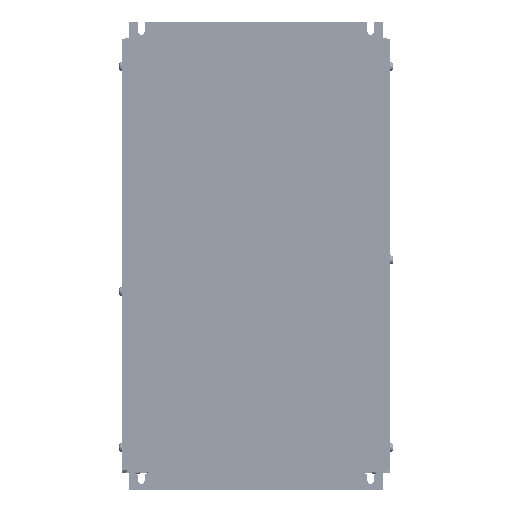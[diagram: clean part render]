
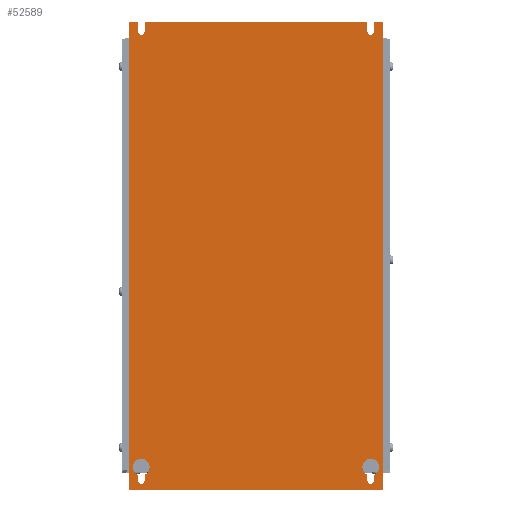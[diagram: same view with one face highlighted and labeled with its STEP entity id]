
A CAD part, front view. The second image highlights one B-rep face of the part: STEP entity #52589.
In plain terms, the highlighted planar face has unit normal (0, -1, 0).
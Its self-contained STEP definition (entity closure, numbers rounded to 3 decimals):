
#11776=DIRECTION('',(-1.,0.,0.));
#11777=VECTOR('',#11776,8.4);
#11778=CARTESIAN_POINT('',(-213.4,-100.,88.4));
#11779=LINE('',#11778,#11777);
#11784=DIRECTION('',(0.,0.,-1.));
#11785=VECTOR('',#11784,8.5);
#11786=CARTESIAN_POINT('',(-213.4,-100.,88.4));
#11787=LINE('',#11786,#11785);
#11837=DIRECTION('',(-1.,0.,0.));
#11838=VECTOR('',#11837,200.);
#11839=CARTESIAN_POINT('',(-7.4,-100.,88.4));
#11840=LINE('',#11839,#11838);
#11841=DIRECTION('',(0.,0.,-1.));
#11842=VECTOR('',#11841,8.5);
#11843=CARTESIAN_POINT('',(-7.4,-100.,88.4));
#11844=LINE('',#11843,#11842);
#11910=DIRECTION('',(-1.,0.,0.));
#11911=VECTOR('',#11910,8.4);
#11912=CARTESIAN_POINT('',(7.,-100.,88.4));
#11913=LINE('',#11912,#11911);
#11918=DIRECTION('',(0.,0.,-1.));
#11919=VECTOR('',#11918,8.5);
#11920=CARTESIAN_POINT('',(-1.4,-100.,88.4));
#11921=LINE('',#11920,#11919);
#11922=CARTESIAN_POINT('',(-4.4,-100.,79.9));
#11923=DIRECTION('',(0.,-1.,0.));
#11924=DIRECTION('',(-1.,0.,0.));
#11925=AXIS2_PLACEMENT_3D('',#11922,#11923,#11924);
#11927=DIRECTION('',(0.,0.,1.));
#11928=VECTOR('',#11927,420.);
#11929=CARTESIAN_POINT('',(7.,-100.,-331.6));
#11930=LINE('',#11929,#11928);
#11931=DIRECTION('',(1.,0.,0.));
#11932=VECTOR('',#11931,228.8);
#11933=CARTESIAN_POINT('',(-221.8,-100.,-331.6));
#11934=LINE('',#11933,#11932);
#11935=DIRECTION('',(0.,0.,-1.));
#11936=VECTOR('',#11935,420.);
#11937=CARTESIAN_POINT('',(-221.8,-100.,88.4));
#11938=LINE('',#11937,#11936);
#11939=CARTESIAN_POINT('',(-210.4,-100.,79.9));
#11940=DIRECTION('',(0.,-1.,0.));
#11941=DIRECTION('',(-1.,0.,0.));
#11942=AXIS2_PLACEMENT_3D('',#11939,#11940,#11941);
#11944=CARTESIAN_POINT('',(-210.4,-100.,-311.1));
#11945=DIRECTION('',(0.,-1.,0.));
#11946=DIRECTION('',(0.4,0.,-0.917));
#11947=AXIS2_PLACEMENT_3D('',#11944,#11945,#11946);
#11949=CARTESIAN_POINT('',(-210.4,-100.,-323.1));
#11950=DIRECTION('',(0.,-1.,0.));
#11951=DIRECTION('',(-1.,0.,0.));
#11952=AXIS2_PLACEMENT_3D('',#11949,#11950,#11951);
#11954=CARTESIAN_POINT('',(-4.4,-100.,-311.1));
#11955=DIRECTION('',(0.,-1.,0.));
#11956=DIRECTION('',(0.4,0.,-0.917));
#11957=AXIS2_PLACEMENT_3D('',#11954,#11955,#11956);
#11959=CARTESIAN_POINT('',(-4.4,-100.,-323.1));
#11960=DIRECTION('',(0.,-1.,0.));
#11961=DIRECTION('',(-1.,0.,0.));
#11962=AXIS2_PLACEMENT_3D('',#11959,#11960,#11961);
#16192=DIRECTION('',(0.,0.,-1.));
#16193=VECTOR('',#16192,5.126);
#16194=CARTESIAN_POINT('',(-7.4,-100.,-317.974));
#16195=LINE('',#16194,#16193);
#16208=DIRECTION('',(0.,0.,-1.));
#16209=VECTOR('',#16208,5.126);
#16210=CARTESIAN_POINT('',(-1.4,-100.,-317.974));
#16211=LINE('',#16210,#16209);
#16224=DIRECTION('',(0.,0.,-1.));
#16225=VECTOR('',#16224,5.126);
#16226=CARTESIAN_POINT('',(-213.4,-100.,-317.974));
#16227=LINE('',#16226,#16225);
#16240=DIRECTION('',(0.,0.,-1.));
#16241=VECTOR('',#16240,5.126);
#16242=CARTESIAN_POINT('',(-207.4,-100.,-317.974));
#16243=LINE('',#16242,#16241);
#16256=DIRECTION('',(0.,0.,-1.));
#16257=VECTOR('',#16256,8.5);
#16258=CARTESIAN_POINT('',(-207.4,-100.,88.4));
#16259=LINE('',#16258,#16257);
#26942=CARTESIAN_POINT('',(-221.8,-100.,-331.6));
#26943=VERTEX_POINT('',#26942);
#26944=CARTESIAN_POINT('',(-221.8,-100.,88.4));
#26945=VERTEX_POINT('',#26944);
#28754=CARTESIAN_POINT('',(7.,-100.,-331.6));
#28755=VERTEX_POINT('',#28754);
#30026=CARTESIAN_POINT('',(7.,-100.,88.4));
#30027=VERTEX_POINT('',#30026);
#30042=CARTESIAN_POINT('',(-7.4,-100.,88.4));
#30043=CARTESIAN_POINT('',(-7.4,-100.,79.9));
#30044=VERTEX_POINT('',#30042);
#30045=VERTEX_POINT('',#30043);
#30046=CARTESIAN_POINT('',(-207.4,-100.,88.4));
#30047=VERTEX_POINT('',#30046);
#30048=CARTESIAN_POINT('',(-207.4,-100.,79.9));
#30049=VERTEX_POINT('',#30048);
#30050=CARTESIAN_POINT('',(-213.4,-100.,79.9));
#30051=VERTEX_POINT('',#30050);
#30052=CARTESIAN_POINT('',(-213.4,-100.,88.4));
#30053=VERTEX_POINT('',#30052);
#30054=CARTESIAN_POINT('',(-1.4,-100.,88.4));
#30055=VERTEX_POINT('',#30054);
#30056=CARTESIAN_POINT('',(-1.4,-100.,79.9));
#30057=VERTEX_POINT('',#30056);
#30058=CARTESIAN_POINT('',(-207.4,-100.,-317.974));
#30059=CARTESIAN_POINT('',(-213.4,-100.,-317.974));
#30060=VERTEX_POINT('',#30058);
#30061=VERTEX_POINT('',#30059);
#30062=CARTESIAN_POINT('',(-207.4,-100.,-323.1));
#30063=VERTEX_POINT('',#30062);
#30064=CARTESIAN_POINT('',(-213.4,-100.,-323.1));
#30065=VERTEX_POINT('',#30064);
#30066=CARTESIAN_POINT('',(-1.4,-100.,-317.974));
#30067=CARTESIAN_POINT('',(-7.4,-100.,-317.974));
#30068=VERTEX_POINT('',#30066);
#30069=VERTEX_POINT('',#30067);
#30070=CARTESIAN_POINT('',(-1.4,-100.,-323.1));
#30071=VERTEX_POINT('',#30070);
#30072=CARTESIAN_POINT('',(-7.4,-100.,-323.1));
#30073=VERTEX_POINT('',#30072);
#52546=CARTESIAN_POINT('',(-107.4,-100.,-121.6));
#52547=DIRECTION('',(0.,1.,0.));
#52548=DIRECTION('',(0.,0.,-1.));
#52549=AXIS2_PLACEMENT_3D('',#52546,#52547,#52548);
#52550=PLANE('',#52549);
#52551=ORIENTED_EDGE('',*,*,#52465,.T.);
#52553=ORIENTED_EDGE('',*,*,#52552,.T.);
#52554=ORIENTED_EDGE('',*,*,#52538,.F.);
#52555=ORIENTED_EDGE('',*,*,#52527,.F.);
#52556=ORIENTED_EDGE('',*,*,#52257,.F.);
#52558=ORIENTED_EDGE('',*,*,#52557,.F.);
#52559=ORIENTED_EDGE('',*,*,#52316,.F.);
#52560=ORIENTED_EDGE('',*,*,#52374,.F.);
#52561=ORIENTED_EDGE('',*,*,#52394,.T.);
#52563=ORIENTED_EDGE('',*,*,#52562,.T.);
#52565=ORIENTED_EDGE('',*,*,#52564,.F.);
#52566=ORIENTED_EDGE('',*,*,#52440,.F.);
#52567=EDGE_LOOP('',(#52551,#52553,#52554,#52555,#52556,#52558,#52559,#52560,
#52561,#52563,#52565,#52566));
#52568=FACE_OUTER_BOUND('',#52567,.F.);
#52570=ORIENTED_EDGE('',*,*,#52569,.T.);
#52572=ORIENTED_EDGE('',*,*,#52571,.T.);
#52574=ORIENTED_EDGE('',*,*,#52573,.T.);
#52576=ORIENTED_EDGE('',*,*,#52575,.F.);
#52577=EDGE_LOOP('',(#52570,#52572,#52574,#52576));
#52578=FACE_BOUND('',#52577,.F.);
#52580=ORIENTED_EDGE('',*,*,#52579,.T.);
#52582=ORIENTED_EDGE('',*,*,#52581,.T.);
#52584=ORIENTED_EDGE('',*,*,#52583,.T.);
#52586=ORIENTED_EDGE('',*,*,#52585,.F.);
#52587=EDGE_LOOP('',(#52580,#52582,#52584,#52586));
#52588=FACE_BOUND('',#52587,.F.);
#52589=ADVANCED_FACE('',(#52568,#52578,#52588),#52550,.F.);
#11926=CIRCLE('',#11925,3.);
#11943=CIRCLE('',#11942,3.);
#11948=CIRCLE('',#11947,7.5);
#11953=CIRCLE('',#11952,3.);
#11958=CIRCLE('',#11957,7.5);
#11963=CIRCLE('',#11962,3.);
#52257=EDGE_CURVE('',#28755,#30027,#11930,.T.);
#52316=EDGE_CURVE('',#26945,#26943,#11938,.T.);
#52374=EDGE_CURVE('',#30053,#26945,#11779,.T.);
#52394=EDGE_CURVE('',#30053,#30051,#11787,.T.);
#52440=EDGE_CURVE('',#30044,#30047,#11840,.T.);
#52465=EDGE_CURVE('',#30044,#30045,#11844,.T.);
#52527=EDGE_CURVE('',#30027,#30055,#11913,.T.);
#52538=EDGE_CURVE('',#30055,#30057,#11921,.T.);
#52552=EDGE_CURVE('',#30045,#30057,#11926,.T.);
#52557=EDGE_CURVE('',#26943,#28755,#11934,.T.);
#52562=EDGE_CURVE('',#30051,#30049,#11943,.T.);
#52564=EDGE_CURVE('',#30047,#30049,#16259,.T.);
#52569=EDGE_CURVE('',#30060,#30061,#11948,.T.);
#52571=EDGE_CURVE('',#30061,#30065,#16227,.T.);
#52573=EDGE_CURVE('',#30065,#30063,#11953,.T.);
#52575=EDGE_CURVE('',#30060,#30063,#16243,.T.);
#52579=EDGE_CURVE('',#30068,#30069,#11958,.T.);
#52581=EDGE_CURVE('',#30069,#30073,#16195,.T.);
#52583=EDGE_CURVE('',#30073,#30071,#11963,.T.);
#52585=EDGE_CURVE('',#30068,#30071,#16211,.T.);
